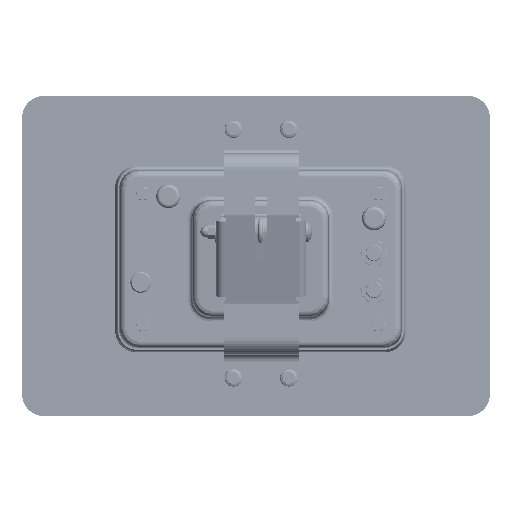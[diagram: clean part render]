
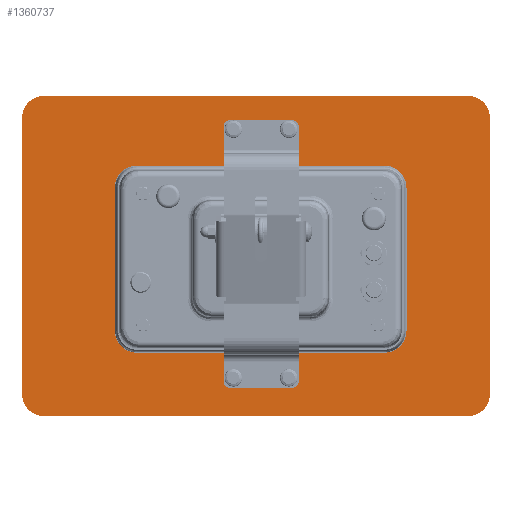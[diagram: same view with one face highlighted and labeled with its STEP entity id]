
A CAD part, front view. The second image highlights one B-rep face of the part: STEP entity #1360737.
In plain terms, the highlighted planar face has unit normal (0, -1, 0) as drawn and (0, 0, -1) by its records, which use the part's own axes.
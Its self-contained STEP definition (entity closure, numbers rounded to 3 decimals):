
#1360424=DIRECTION('',(1.,0.,0.));
#1360425=VECTOR('',#1360424,201.);
#1360426=CARTESIAN_POINT('',(-100.5,76.,0.));
#1360427=LINE('',#1360426,#1360425);
#1360428=DIRECTION('',(0.,-1.,0.));
#1360429=VECTOR('',#1360428,116.);
#1360430=CARTESIAN_POINT('',(118.5,58.,0.));
#1360431=LINE('',#1360430,#1360429);
#1360432=DIRECTION('',(-1.,0.,0.));
#1360433=VECTOR('',#1360432,201.);
#1360434=CARTESIAN_POINT('',(100.5,-76.,0.));
#1360435=LINE('',#1360434,#1360433);
#1360436=DIRECTION('',(0.,1.,0.));
#1360437=VECTOR('',#1360436,116.);
#1360438=CARTESIAN_POINT('',(-118.5,-58.,0.));
#1360439=LINE('',#1360438,#1360437);
#1360440=CARTESIAN_POINT('',(-175.712,109.461,0.));
#1360441=DIRECTION('',(0.,0.,-1.));
#1360442=DIRECTION('',(-1.,0.,0.));
#1360443=AXIS2_PLACEMENT_3D('',#1360440,#1360441,#1360442);
#1360445=DIRECTION('',(0.,-1.,0.));
#1360446=VECTOR('',#1360445,224.);
#1360447=CARTESIAN_POINT('',(-193.712,109.461,0.));
#1360448=LINE('',#1360447,#1360446);
#1360449=CARTESIAN_POINT('',(-175.712,-114.539,0.));
#1360450=DIRECTION('',(0.,0.,-1.));
#1360451=DIRECTION('',(0.,-1.,0.));
#1360452=AXIS2_PLACEMENT_3D('',#1360449,#1360450,#1360451);
#1360454=DIRECTION('',(1.,0.,0.));
#1360455=VECTOR('',#1360454,344.);
#1360456=CARTESIAN_POINT('',(-175.712,-132.539,0.));
#1360457=LINE('',#1360456,#1360455);
#1360458=CARTESIAN_POINT('',(168.288,-114.539,0.));
#1360459=DIRECTION('',(0.,0.,-1.));
#1360460=DIRECTION('',(1.,0.,0.));
#1360461=AXIS2_PLACEMENT_3D('',#1360458,#1360459,#1360460);
#1360463=DIRECTION('',(0.,1.,0.));
#1360464=VECTOR('',#1360463,224.);
#1360465=CARTESIAN_POINT('',(186.288,-114.539,0.));
#1360466=LINE('',#1360465,#1360464);
#1360467=CARTESIAN_POINT('',(168.288,109.461,0.));
#1360468=DIRECTION('',(0.,0.,-1.));
#1360469=DIRECTION('',(0.,1.,0.));
#1360470=AXIS2_PLACEMENT_3D('',#1360467,#1360468,#1360469);
#1360472=DIRECTION('',(-1.,0.,0.));
#1360473=VECTOR('',#1360472,344.);
#1360474=CARTESIAN_POINT('',(168.288,127.461,0.));
#1360475=LINE('',#1360474,#1360473);
#1360484=CARTESIAN_POINT('',(-100.5,58.,0.));
#1360485=DIRECTION('',(0.,0.,1.));
#1360486=DIRECTION('',(0.,1.,0.));
#1360487=AXIS2_PLACEMENT_3D('',#1360484,#1360485,#1360486);
#1360502=CARTESIAN_POINT('',(-100.5,-58.,0.));
#1360503=DIRECTION('',(0.,0.,1.));
#1360504=DIRECTION('',(-1.,0.,0.));
#1360505=AXIS2_PLACEMENT_3D('',#1360502,#1360503,#1360504);
#1360520=CARTESIAN_POINT('',(100.5,-58.,0.));
#1360521=DIRECTION('',(0.,0.,1.));
#1360522=DIRECTION('',(0.,-1.,0.));
#1360523=AXIS2_PLACEMENT_3D('',#1360520,#1360521,#1360522);
#1360538=CARTESIAN_POINT('',(100.5,58.,0.));
#1360539=DIRECTION('',(0.,0.,1.));
#1360540=DIRECTION('',(1.,0.,0.));
#1360541=AXIS2_PLACEMENT_3D('',#1360538,#1360539,#1360540);
#1360632=CARTESIAN_POINT('',(-100.5,76.,0.));
#1360634=VERTEX_POINT('',#1360632);
#1360636=CARTESIAN_POINT('',(-118.5,58.,0.));
#1360638=VERTEX_POINT('',#1360636);
#1360640=CARTESIAN_POINT('',(118.5,58.,0.));
#1360642=VERTEX_POINT('',#1360640);
#1360644=CARTESIAN_POINT('',(100.5,76.,0.));
#1360646=VERTEX_POINT('',#1360644);
#1360648=CARTESIAN_POINT('',(-118.5,-58.,0.));
#1360650=VERTEX_POINT('',#1360648);
#1360652=CARTESIAN_POINT('',(-100.5,-76.,0.));
#1360654=VERTEX_POINT('',#1360652);
#1360656=CARTESIAN_POINT('',(100.5,-76.,0.));
#1360658=VERTEX_POINT('',#1360656);
#1360660=CARTESIAN_POINT('',(118.5,-58.,0.));
#1360662=VERTEX_POINT('',#1360660);
#1360664=CARTESIAN_POINT('',(-193.712,109.461,0.));
#1360665=CARTESIAN_POINT('',(-175.712,127.461,0.));
#1360666=VERTEX_POINT('',#1360664);
#1360667=VERTEX_POINT('',#1360665);
#1360672=CARTESIAN_POINT('',(168.288,127.461,0.));
#1360673=CARTESIAN_POINT('',(186.288,109.461,0.));
#1360674=VERTEX_POINT('',#1360672);
#1360675=VERTEX_POINT('',#1360673);
#1360680=CARTESIAN_POINT('',(-175.712,-132.539,0.));
#1360681=CARTESIAN_POINT('',(-193.712,-114.539,0.));
#1360682=VERTEX_POINT('',#1360680);
#1360683=VERTEX_POINT('',#1360681);
#1360688=CARTESIAN_POINT('',(186.288,-114.539,0.));
#1360689=CARTESIAN_POINT('',(168.288,-132.539,0.));
#1360690=VERTEX_POINT('',#1360688);
#1360691=VERTEX_POINT('',#1360689);
#1360696=CARTESIAN_POINT('',(0.,0.,0.));
#1360697=DIRECTION('',(0.,0.,1.));
#1360698=DIRECTION('',(1.,0.,0.));
#1360699=AXIS2_PLACEMENT_3D('',#1360696,#1360697,#1360698);
#1360700=PLANE('',#1360699);
#1360702=ORIENTED_EDGE('',*,*,#1360701,.F.);
#1360704=ORIENTED_EDGE('',*,*,#1360703,.T.);
#1360706=ORIENTED_EDGE('',*,*,#1360705,.F.);
#1360708=ORIENTED_EDGE('',*,*,#1360707,.T.);
#1360710=ORIENTED_EDGE('',*,*,#1360709,.F.);
#1360712=ORIENTED_EDGE('',*,*,#1360711,.T.);
#1360714=ORIENTED_EDGE('',*,*,#1360713,.F.);
#1360716=ORIENTED_EDGE('',*,*,#1360715,.T.);
#1360717=EDGE_LOOP('',(#1360702,#1360704,#1360706,#1360708,#1360710,#1360712,
#1360714,#1360716));
#1360718=FACE_OUTER_BOUND('',#1360717,.F.);
#1360720=ORIENTED_EDGE('',*,*,#1360719,.T.);
#1360722=ORIENTED_EDGE('',*,*,#1360721,.F.);
#1360724=ORIENTED_EDGE('',*,*,#1360723,.T.);
#1360726=ORIENTED_EDGE('',*,*,#1360725,.F.);
#1360728=ORIENTED_EDGE('',*,*,#1360727,.T.);
#1360730=ORIENTED_EDGE('',*,*,#1360729,.F.);
#1360732=ORIENTED_EDGE('',*,*,#1360731,.T.);
#1360734=ORIENTED_EDGE('',*,*,#1360733,.F.);
#1360735=EDGE_LOOP('',(#1360720,#1360722,#1360724,#1360726,#1360728,#1360730,
#1360732,#1360734));
#1360736=FACE_BOUND('',#1360735,.F.);
#1360737=ADVANCED_FACE('',(#1360718,#1360736),#1360700,.F.);
#1360444=CIRCLE('',#1360443,18.);
#1360453=CIRCLE('',#1360452,18.);
#1360462=CIRCLE('',#1360461,18.);
#1360471=CIRCLE('',#1360470,18.);
#1360488=CIRCLE('',#1360487,18.);
#1360506=CIRCLE('',#1360505,18.);
#1360524=CIRCLE('',#1360523,18.);
#1360542=CIRCLE('',#1360541,18.);
#1360701=EDGE_CURVE('',#1360666,#1360667,#1360444,.T.);
#1360703=EDGE_CURVE('',#1360666,#1360683,#1360448,.T.);
#1360705=EDGE_CURVE('',#1360682,#1360683,#1360453,.T.);
#1360707=EDGE_CURVE('',#1360682,#1360691,#1360457,.T.);
#1360709=EDGE_CURVE('',#1360690,#1360691,#1360462,.T.);
#1360711=EDGE_CURVE('',#1360690,#1360675,#1360466,.T.);
#1360713=EDGE_CURVE('',#1360674,#1360675,#1360471,.T.);
#1360715=EDGE_CURVE('',#1360674,#1360667,#1360475,.T.);
#1360719=EDGE_CURVE('',#1360634,#1360646,#1360427,.T.);
#1360721=EDGE_CURVE('',#1360642,#1360646,#1360542,.T.);
#1360723=EDGE_CURVE('',#1360642,#1360662,#1360431,.T.);
#1360725=EDGE_CURVE('',#1360658,#1360662,#1360524,.T.);
#1360727=EDGE_CURVE('',#1360658,#1360654,#1360435,.T.);
#1360729=EDGE_CURVE('',#1360650,#1360654,#1360506,.T.);
#1360731=EDGE_CURVE('',#1360650,#1360638,#1360439,.T.);
#1360733=EDGE_CURVE('',#1360634,#1360638,#1360488,.T.);
